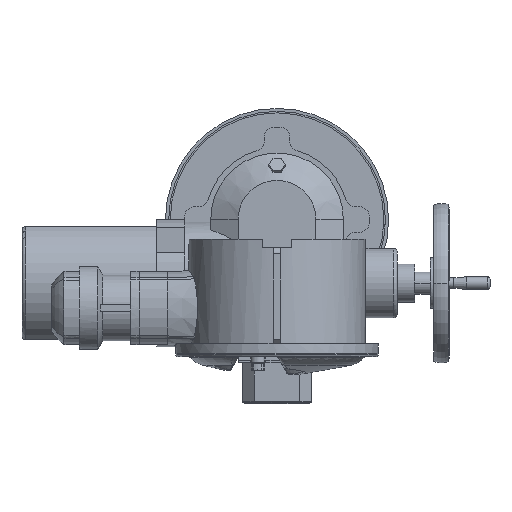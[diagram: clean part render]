
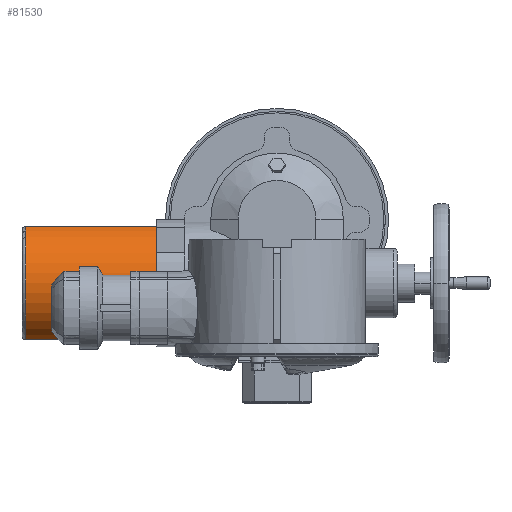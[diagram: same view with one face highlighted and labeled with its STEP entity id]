
A CAD part, top view. The second image highlights one B-rep face of the part: STEP entity #81530.
In plain terms, the highlighted cylindrical face has radius 96.5 mm (diameter 193 mm), a partial arc.
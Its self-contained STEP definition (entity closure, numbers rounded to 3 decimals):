
#80240=CARTESIAN_POINT('',(-189.,-73.,
-34.5));
#80250=DIRECTION('',(-1.,0.,0.));
#80260=DIRECTION('',(0.,-1.,0.));
#80270=AXIS2_PLACEMENT_3D('',#80240,#80250,#80260);
#80280=CIRCLE('',#80270,96.5);
#80290=CARTESIAN_POINT('',(-189.,-162.,
2.799));
#80300=VERTEX_POINT('',#80290);
#80310=CARTESIAN_POINT('',(-189.,16.,
2.799));
#80320=VERTEX_POINT('',#80310);
#80330=EDGE_CURVE('',#80300,#80320,#80280,.T.);
#81160=CARTESIAN_POINT('',(-394.,-162.,
2.799));
#81170=VERTEX_POINT('',#81160);
#81200=CARTESIAN_POINT('',(-400.5,-162.,
2.799));
#81210=DIRECTION('',(-1.,0.,0.));
#81220=VECTOR('',#81210,1.);
#81230=LINE('',#81200,#81220);
#81240=EDGE_CURVE('',#80300,#81170,#81230,.T.);
#81290=CARTESIAN_POINT('',(-400.5,-73.,
-34.5));
#81300=DIRECTION('',(-1.,0.,0.));
#81310=DIRECTION('',(0.,-1.,0.));
#81320=AXIS2_PLACEMENT_3D('',#81290,#81300,#81310);
#81330=CYLINDRICAL_SURFACE('',#81320,96.5);
#81340=CARTESIAN_POINT('',(-394.,-73.,
-34.5));
#81350=DIRECTION('',(-1.,0.,0.));
#81360=DIRECTION('',(0.,1.,0.));
#81370=AXIS2_PLACEMENT_3D('',#81340,#81350,#81360);
#81380=CIRCLE('',#81370,96.5);
#81390=CARTESIAN_POINT('',(-394.,16.,
2.799));
#81400=VERTEX_POINT('',#81390);
#81410=EDGE_CURVE('',#81170,#81400,#81380,.T.);
#81420=ORIENTED_EDGE('',*,*,#81410,.F.);
#81430=CARTESIAN_POINT('',(-400.5,16.,
2.799));
#81440=DIRECTION('',(-1.,0.,0.));
#81450=VECTOR('',#81440,1.);
#81460=LINE('',#81430,#81450);
#81470=EDGE_CURVE('',#80320,#81400,#81460,.T.);
#81480=ORIENTED_EDGE('',*,*,#81470,.T.);
#81490=ORIENTED_EDGE('',*,*,#80330,.T.);
#81500=ORIENTED_EDGE('',*,*,#81240,.F.);
#81510=EDGE_LOOP('',(#81500,#81490,#81480,#81420));
#81520=FACE_OUTER_BOUND('',#81510,.T.);
#81530=ADVANCED_FACE('',(#81520),#81330,.T.);
